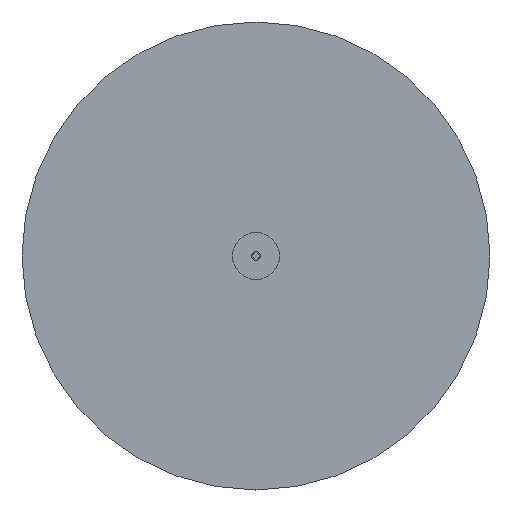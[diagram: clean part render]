
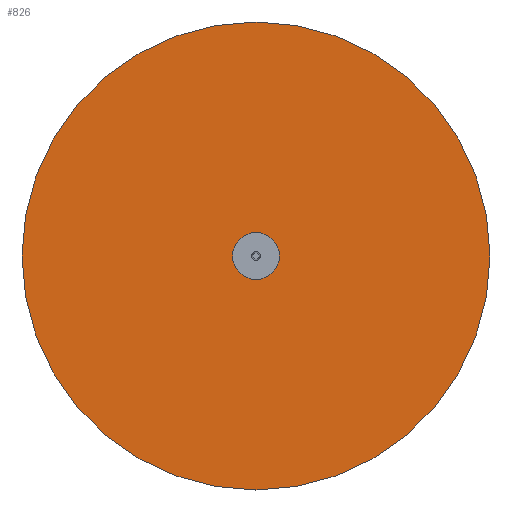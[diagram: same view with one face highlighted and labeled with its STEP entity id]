
A CAD part, front view. The second image highlights one B-rep face of the part: STEP entity #826.
In plain terms, the highlighted planar face has unit normal (0, -1, 0).
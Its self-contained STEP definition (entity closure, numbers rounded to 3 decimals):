
#546=CARTESIAN_POINT('',(70.,-26.,0.0));
#547=VERTEX_POINT('',#546);
#563=CARTESIAN_POINT('',(-70.,-26.,0.));
#564=VERTEX_POINT('',#563);
#571=CARTESIAN_POINT('',(0.0,-26.,0.0));
#572=DIRECTION('',(0.0,-1.0,0.0));
#573=DIRECTION('',(1.0,0.0,0.0));
#574=AXIS2_PLACEMENT_3D('',#571,#572,#573);
#575=CIRCLE('',#574,70.);
#576=EDGE_CURVE('',#547,#564,#575,.T.);
#638=CARTESIAN_POINT('',(7.,-26.,0.0));
#639=VERTEX_POINT('',#638);
#664=CARTESIAN_POINT('',(-7.,-26.,0.));
#665=VERTEX_POINT('',#664);
#672=CARTESIAN_POINT('',(0.0,-26.,0.0));
#673=DIRECTION('',(0.0,-1.0,0.0));
#674=DIRECTION('',(1.0,0.0,0.0));
#675=AXIS2_PLACEMENT_3D('',#672,#673,#674);
#676=CIRCLE('',#675,7.);
#677=EDGE_CURVE('',#665,#639,#676,.T.);
#756=CARTESIAN_POINT('',(0.0,-26.,0.0));
#757=DIRECTION('',(0.0,-1.0,0.0));
#758=DIRECTION('',(1.0,0.0,0.0));
#759=AXIS2_PLACEMENT_3D('',#756,#757,#758);
#760=CIRCLE('',#759,7.);
#761=EDGE_CURVE('',#639,#665,#760,.T.);
#795=CARTESIAN_POINT('',(0.0,-26.,0.0));
#796=DIRECTION('',(0.0,-1.0,0.0));
#797=DIRECTION('',(1.0,0.0,0.0));
#798=AXIS2_PLACEMENT_3D('',#795,#796,#797);
#799=CIRCLE('',#798,70.);
#800=EDGE_CURVE('',#564,#547,#799,.T.);
#813=CARTESIAN_POINT('',(38.5,-26.,0.0));
#814=DIRECTION('',(0.0,-1.0,0.0));
#815=DIRECTION('',(0.0,0.0,-1.0));
#816=AXIS2_PLACEMENT_3D('',#813,#814,#815);
#817=PLANE('',#816);
#818=ORIENTED_EDGE('',*,*,#576,.T.);
#819=ORIENTED_EDGE('',*,*,#800,.T.);
#820=EDGE_LOOP('',(#818,#819));
#821=FACE_OUTER_BOUND('',#820,.T.);
#822=ORIENTED_EDGE('',*,*,#761,.F.);
#823=ORIENTED_EDGE('',*,*,#677,.F.);
#824=EDGE_LOOP('',(#822,#823));
#825=FACE_BOUND('',#824,.T.);
#826=ADVANCED_FACE('',(#821,#825),#817,.T.);
